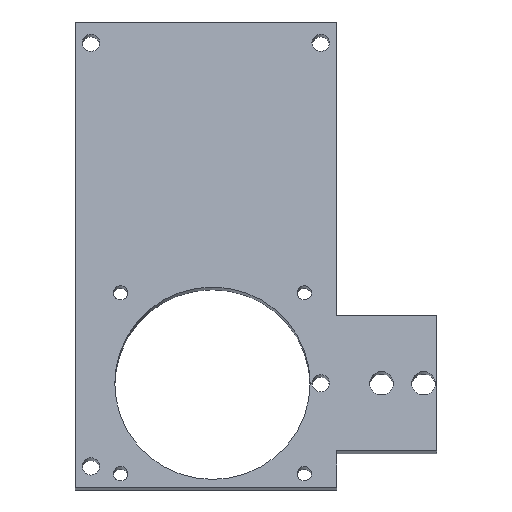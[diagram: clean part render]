
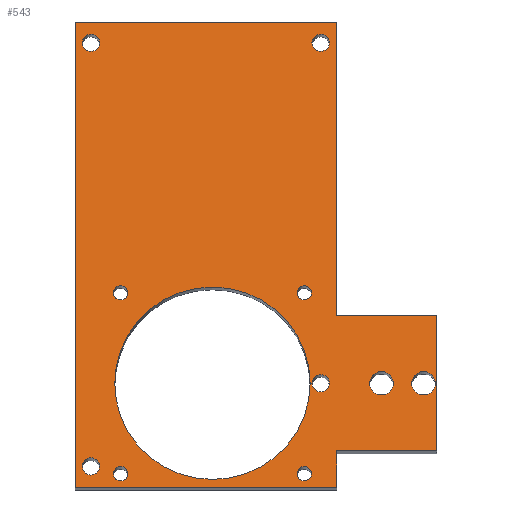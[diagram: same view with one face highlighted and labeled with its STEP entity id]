
A CAD part, front view. The second image highlights one B-rep face of the part: STEP entity #543.
In plain terms, the highlighted planar face has unit normal (0, -0.985, 0.174).
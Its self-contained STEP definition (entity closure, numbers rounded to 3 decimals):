
#37=CARTESIAN_POINT('',(-446.5,160.519,1576.368));
#38=VERTEX_POINT('',#37);
#45=CARTESIAN_POINT('',(-545.5,160.519,1576.368));
#46=VERTEX_POINT('',#45);
#47=CARTESIAN_POINT('',(-545.5,160.519,1576.368));
#48=DIRECTION('',(1.0,0.0,0.0));
#49=VECTOR('',#48,1.);
#50=LINE('',#47,#49);
#51=EDGE_CURVE('',#46,#38,#50,.T.);
#75=CARTESIAN_POINT('',(-446.5,162.95,1590.156));
#76=VERTEX_POINT('',#75);
#83=CARTESIAN_POINT('',(-446.5,160.519,1576.368));
#84=DIRECTION('',(0.,0.174,0.985));
#85=VECTOR('',#84,1.);
#86=LINE('',#83,#85);
#87=EDGE_CURVE('',#38,#76,#86,.T.);
#108=CARTESIAN_POINT('',(-545.5,191.588,1752.565));
#109=VERTEX_POINT('',#108);
#116=CARTESIAN_POINT('',(-446.5,191.588,1752.565));
#117=VERTEX_POINT('',#116);
#118=CARTESIAN_POINT('',(-446.5,191.588,1752.565));
#119=DIRECTION('',(-1.0,0.,0.));
#120=VECTOR('',#119,1.);
#121=LINE('',#118,#120);
#122=EDGE_CURVE('',#117,#109,#121,.T.);
#145=CARTESIAN_POINT('',(-545.5,191.588,1752.565));
#146=DIRECTION('',(0.,-0.174,-0.985));
#147=VECTOR('',#146,1.);
#148=LINE('',#145,#147);
#149=EDGE_CURVE('',#109,#46,#148,.T.);
#169=CARTESIAN_POINT('',(-446.5,171.98,1641.366));
#170=VERTEX_POINT('',#169);
#171=CARTESIAN_POINT('',(-446.5,160.519,1576.368));
#172=DIRECTION('',(0.,0.174,0.985));
#173=VECTOR('',#172,1.);
#174=LINE('',#171,#173);
#175=EDGE_CURVE('',#170,#117,#174,.T.);
#199=CARTESIAN_POINT('',(-408.5,162.95,1590.156));
#200=VERTEX_POINT('',#199);
#207=CARTESIAN_POINT('',(-447.5,162.95,1590.156));
#208=DIRECTION('',(1.0,0.0,0.0));
#209=VECTOR('',#208,1.);
#210=LINE('',#207,#209);
#211=EDGE_CURVE('',#76,#200,#210,.T.);
#230=CARTESIAN_POINT('',(-408.5,171.98,1641.366));
#231=VERTEX_POINT('',#230);
#238=CARTESIAN_POINT('',(-408.5,162.95,1590.156));
#239=DIRECTION('',(0.,0.174,0.985));
#240=VECTOR('',#239,1.);
#241=LINE('',#238,#240);
#242=EDGE_CURVE('',#200,#231,#241,.T.);
#260=CARTESIAN_POINT('',(-408.5,171.98,1641.366));
#261=DIRECTION('',(-1.0,0.,0.));
#262=VECTOR('',#261,1.);
#263=LINE('',#260,#262);
#264=EDGE_CURVE('',#231,#170,#263,.T.);
#407=CARTESIAN_POINT('',(-545.5,160.519,1576.368));
#408=DIRECTION('',(0.0,-0.985,0.174));
#409=DIRECTION('',(1.0,0.0,0.0));
#410=AXIS2_PLACEMENT_3D('',#407,#408,#409);
#411=PLANE('',#410);
#412=ORIENTED_EDGE('',*,*,#211,.T.);
#413=ORIENTED_EDGE('',*,*,#242,.T.);
#414=ORIENTED_EDGE('',*,*,#264,.T.);
#415=ORIENTED_EDGE('',*,*,#175,.T.);
#416=ORIENTED_EDGE('',*,*,#122,.T.);
#417=ORIENTED_EDGE('',*,*,#149,.T.);
#418=ORIENTED_EDGE('',*,*,#51,.T.);
#419=ORIENTED_EDGE('',*,*,#87,.T.);
#420=EDGE_LOOP('',(#412,#413,#414,#415,#416,#417,#418,#419));
#421=FACE_OUTER_BOUND('',#420,.T.);
#422=CARTESIAN_POINT('',(-456.5,167.465,1615.761));
#423=VERTEX_POINT('',#422);
#424=CARTESIAN_POINT('',(-493.5,167.465,1615.761));
#425=DIRECTION('',(0.0,-0.985,0.174));
#426=DIRECTION('',(1.0,0.0,0.0));
#427=AXIS2_PLACEMENT_3D('',#424,#425,#426);
#428=CIRCLE('',#427,37.0);
#429=EDGE_CURVE('',#423,#423,#428,.T.);
#430=ORIENTED_EDGE('',*,*,#429,.F.);
#431=EDGE_LOOP('',(#430));
#432=FACE_BOUND('',#431,.T.);
#433=CARTESIAN_POINT('',(-525.54,161.424,1581.499));
#434=VERTEX_POINT('',#433);
#435=CARTESIAN_POINT('',(-528.29,161.424,1581.499));
#436=DIRECTION('',(0.0,-0.985,0.174));
#437=DIRECTION('',(1.0,0.0,0.0));
#438=AXIS2_PLACEMENT_3D('',#435,#436,#437);
#439=CIRCLE('',#438,2.75);
#440=EDGE_CURVE('',#434,#434,#439,.T.);
#441=ORIENTED_EDGE('',*,*,#440,.F.);
#442=EDGE_LOOP('',(#441));
#443=FACE_BOUND('',#442,.T.);
#444=CARTESIAN_POINT('',(-525.54,173.507,1650.022));
#445=VERTEX_POINT('',#444);
#446=CARTESIAN_POINT('',(-528.29,173.507,1650.022));
#447=DIRECTION('',(0.0,-0.985,0.174));
#448=DIRECTION('',(1.0,0.0,0.0));
#449=AXIS2_PLACEMENT_3D('',#446,#447,#448);
#450=CIRCLE('',#449,2.75);
#451=EDGE_CURVE('',#445,#445,#450,.T.);
#452=ORIENTED_EDGE('',*,*,#451,.F.);
#453=EDGE_LOOP('',(#452));
#454=FACE_BOUND('',#453,.T.);
#455=CARTESIAN_POINT('',(-455.96,161.424,1581.499));
#456=VERTEX_POINT('',#455);
#457=CARTESIAN_POINT('',(-458.71,161.424,1581.499));
#458=DIRECTION('',(0.0,-0.985,0.174));
#459=DIRECTION('',(1.0,0.0,0.0));
#460=AXIS2_PLACEMENT_3D('',#457,#458,#459);
#461=CIRCLE('',#460,2.75);
#462=EDGE_CURVE('',#456,#456,#461,.T.);
#463=ORIENTED_EDGE('',*,*,#462,.F.);
#464=EDGE_LOOP('',(#463));
#465=FACE_BOUND('',#464,.T.);
#466=CARTESIAN_POINT('',(-455.96,173.507,1650.022));
#467=VERTEX_POINT('',#466);
#468=CARTESIAN_POINT('',(-458.71,173.507,1650.022));
#469=DIRECTION('',(0.0,-0.985,0.174));
#470=DIRECTION('',(1.0,0.0,0.0));
#471=AXIS2_PLACEMENT_3D('',#468,#469,#470);
#472=CIRCLE('',#471,2.75);
#473=EDGE_CURVE('',#467,#467,#472,.T.);
#474=ORIENTED_EDGE('',*,*,#473,.F.);
#475=EDGE_LOOP('',(#474));
#476=FACE_BOUND('',#475,.T.);
#477=CARTESIAN_POINT('',(-536.2,190.198,1744.687));
#478=VERTEX_POINT('',#477);
#479=CARTESIAN_POINT('',(-539.5,190.198,1744.687));
#480=DIRECTION('',(0.0,-0.985,0.174));
#481=DIRECTION('',(1.0,0.0,0.0));
#482=AXIS2_PLACEMENT_3D('',#479,#480,#481);
#483=CIRCLE('',#482,3.3);
#484=EDGE_CURVE('',#478,#478,#483,.T.);
#485=ORIENTED_EDGE('',*,*,#484,.F.);
#486=EDGE_LOOP('',(#485));
#487=FACE_BOUND('',#486,.T.);
#488=CARTESIAN_POINT('',(-449.2,190.198,1744.687));
#489=VERTEX_POINT('',#488);
#490=CARTESIAN_POINT('',(-452.5,190.198,1744.687));
#491=DIRECTION('',(0.0,-0.985,0.174));
#492=DIRECTION('',(1.0,0.0,0.0));
#493=AXIS2_PLACEMENT_3D('',#490,#491,#492);
#494=CIRCLE('',#493,3.3);
#495=EDGE_CURVE('',#489,#489,#494,.T.);
#496=ORIENTED_EDGE('',*,*,#495,.F.);
#497=EDGE_LOOP('',(#496));
#498=FACE_BOUND('',#497,.T.);
#499=CARTESIAN_POINT('',(-536.2,161.909,1584.247));
#500=VERTEX_POINT('',#499);
#501=CARTESIAN_POINT('',(-539.5,161.909,1584.247));
#502=DIRECTION('',(0.0,-0.985,0.174));
#503=DIRECTION('',(1.0,0.0,0.0));
#504=AXIS2_PLACEMENT_3D('',#501,#502,#503);
#505=CIRCLE('',#504,3.3);
#506=EDGE_CURVE('',#500,#500,#505,.T.);
#507=ORIENTED_EDGE('',*,*,#506,.F.);
#508=EDGE_LOOP('',(#507));
#509=FACE_BOUND('',#508,.T.);
#510=CARTESIAN_POINT('',(-449.2,167.465,1615.761));
#511=VERTEX_POINT('',#510);
#512=CARTESIAN_POINT('',(-452.5,167.465,1615.761));
#513=DIRECTION('',(0.0,-0.985,0.174));
#514=DIRECTION('',(1.0,0.0,0.0));
#515=AXIS2_PLACEMENT_3D('',#512,#513,#514);
#516=CIRCLE('',#515,3.3);
#517=EDGE_CURVE('',#511,#511,#516,.T.);
#518=ORIENTED_EDGE('',*,*,#517,.F.);
#519=EDGE_LOOP('',(#518));
#520=FACE_BOUND('',#519,.T.);
#521=CARTESIAN_POINT('',(-425.,167.465,1615.761));
#522=VERTEX_POINT('',#521);
#523=CARTESIAN_POINT('',(-429.5,167.465,1615.761));
#524=DIRECTION('',(0.0,-0.985,0.174));
#525=DIRECTION('',(1.0,0.0,0.0));
#526=AXIS2_PLACEMENT_3D('',#523,#524,#525);
#527=CIRCLE('',#526,4.5);
#528=EDGE_CURVE('',#522,#522,#527,.T.);
#529=ORIENTED_EDGE('',*,*,#528,.F.);
#530=EDGE_LOOP('',(#529));
#531=FACE_BOUND('',#530,.T.);
#532=CARTESIAN_POINT('',(-409.,167.465,1615.761));
#533=VERTEX_POINT('',#532);
#534=CARTESIAN_POINT('',(-413.5,167.465,1615.761));
#535=DIRECTION('',(0.0,-0.985,0.174));
#536=DIRECTION('',(1.0,0.0,0.0));
#537=AXIS2_PLACEMENT_3D('',#534,#535,#536);
#538=CIRCLE('',#537,4.5);
#539=EDGE_CURVE('',#533,#533,#538,.T.);
#540=ORIENTED_EDGE('',*,*,#539,.F.);
#541=EDGE_LOOP('',(#540));
#542=FACE_BOUND('',#541,.T.);
#543=ADVANCED_FACE('',(#421,#432,#443,#454,#465,#476,#487,#498,#509,#520,#531,#542),#411,.T.);
